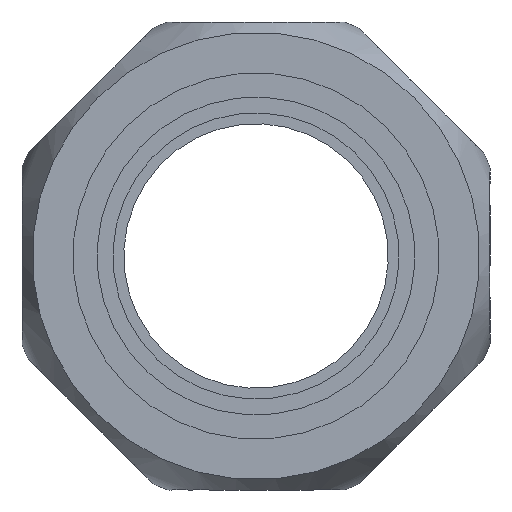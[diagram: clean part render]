
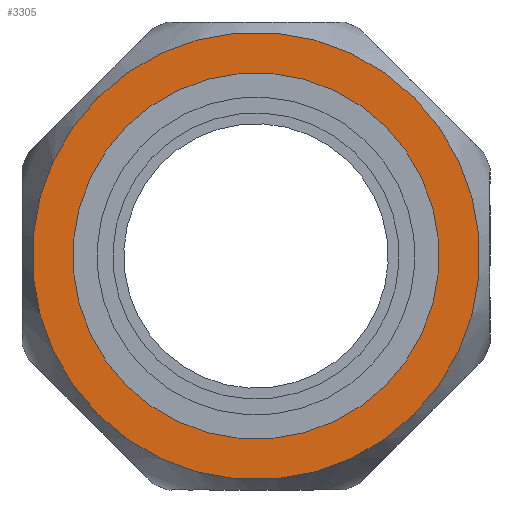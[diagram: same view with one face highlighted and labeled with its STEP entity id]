
A CAD part, left-side view. The second image highlights one B-rep face of the part: STEP entity #3305.
In plain terms, the highlighted planar face has unit normal (-1, 0, 0) as drawn and (1, 0, 0) by its records, which use the part's own axes.
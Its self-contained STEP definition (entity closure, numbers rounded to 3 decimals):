
#3271=CARTESIAN_POINT('',(18.0,22.0,0.0));
#3272=VERTEX_POINT('',#3271);
#3273=CARTESIAN_POINT('',(18.0,0.0,0.0));
#3274=DIRECTION('',(1.0,0.0,0.0));
#3275=DIRECTION('',(0.0,1.0,0.0));
#3276=AXIS2_PLACEMENT_3D('',#3273,#3274,#3275);
#3277=CIRCLE('',#3276,22.0);
#3278=EDGE_CURVE('',#3272,#3272,#3277,.T.);
#3286=CARTESIAN_POINT('',(18.0,20.0,0.0));
#3287=DIRECTION('',(1.0,0.0,0.0));
#3288=DIRECTION('',(0.0,0.0,-1.0));
#3289=AXIS2_PLACEMENT_3D('',#3286,#3287,#3288);
#3290=PLANE('',#3289);
#3291=ORIENTED_EDGE('',*,*,#3278,.T.);
#3292=EDGE_LOOP('',(#3291));
#3293=FACE_OUTER_BOUND('',#3292,.T.);
#3294=CARTESIAN_POINT('',(18.,18.0,0.0));
#3295=VERTEX_POINT('',#3294);
#3296=CARTESIAN_POINT('',(18.,0.0,0.0));
#3297=DIRECTION('',(1.0,0.0,0.0));
#3298=DIRECTION('',(0.0,1.0,0.0));
#3299=AXIS2_PLACEMENT_3D('',#3296,#3297,#3298);
#3300=CIRCLE('',#3299,18.0);
#3301=EDGE_CURVE('',#3295,#3295,#3300,.T.);
#3302=ORIENTED_EDGE('',*,*,#3301,.F.);
#3303=EDGE_LOOP('',(#3302));
#3304=FACE_BOUND('',#3303,.T.);
#3305=ADVANCED_FACE('',(#3293,#3304),#3290,.T.);
